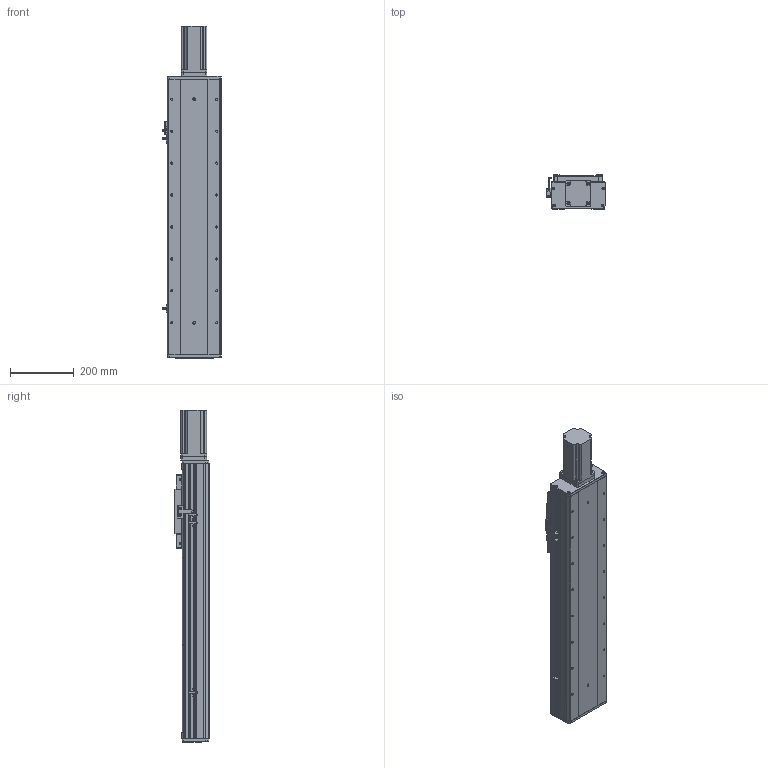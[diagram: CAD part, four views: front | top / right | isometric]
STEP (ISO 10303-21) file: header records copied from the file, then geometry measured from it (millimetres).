
FILE_DESCRIPTION (( 'STEP AP203' ), '1' );
FILE_NAME ('RY170F-L2020-300-MK.SLDASM_550.step', '2021-03-02T06:31:21', ( '盈信电脑' ), ( '东莞市道滘镇水果街19号' ), 'SwSTEP 2.0', 'SolidWorks 2012', '' );
FILE_SCHEMA (( 'CONFIG_CONTROL_DESIGN' ));
Length unit declared in the file: millimetre
Products named in the file (22): RY170F俋离覜茼え; RY170F-揤踡謫假蚾粣; RY170F-詩湍揤踡輸; 覜茼ん672; RY170F-后盖板(铝件）; RY100F-詩湍揤踡謫; 滅袉蝶18-10; 侂狟400W侜督萇儂; RY170F-直连前盖板(铝件）; RY170F-丝杆铝滑块连接板; 15; RY170F-佪裝臏賑輸20蹟譫; RY170F-滅鳥奻裔; RY170F-300眻蟀倰第奻裔啣-MK_550; RY170F-300眻蟀倰第菁釱-MK_550; RY170F-300眻蟀祥凄詩湍-MK_550; 滅袉蝶18-24; RY170F-L2020-300-MK.SLDASM_550; 侐源滅袉蝶; 覜茼ん674; 怢湛750W萇儂ㄗ80遺ㄘ; 750W萇儂梓袧蛌諉啣
Assembly tree (26 placements, depth 3):
  RY170F-L2020-300-MK.SLDASM_550
    RY170F-300眻蟀倰第菁釱-MK_550
    RY170F-300眻蟀祥凄詩湍-MK_550
    RY170F-300眻蟀倰第奻裔啣-MK_550  x2
    RY170F-滅鳥奻裔
    RY170F-佪裝臏賑輸20蹟譫
    RY170F-丝杆铝滑块连接板
    侂狟400W侜督萇儂
      15
    RY170F-直连前盖板(铝件）
    滅袉蝶18-10
    RY100F-詩湍揤踡謫
    RY170F-后盖板(铝件）
    覜茼ん672  x3
    RY170F俋离覜茼え
    RY170F-揤踡謫假蚾粣
    RY170F-詩湍揤踡輸  x2
    滅袉蝶18-24
    750W萇儂梓袧蛌諉啣
    怢湛750W萇儂ㄗ80遺ㄘ
    侐源滅袉蝶  x2
    覜茼ん674
Bounding box: 183.7 x 107 x 1039 mm (x, y, z)
Volume: 5879095.3 mm3; surface area: 1758011.4 mm2
Topology: 25 solids, 25 shells, 2228 faces, 6139 edges, 3934 vertices
Faces by surface type: plane 1001, cylinder 985, cone 224, bspline 18
Entity records: 65307 total; most frequent: CARTESIAN_POINT 12901, DIRECTION 10705, ORIENTED_EDGE 10246, EDGE_CURVE 5123, AXIS2_PLACEMENT_3D 3804, VERTEX_POINT 3354, LINE 3097, VECTOR 3097
